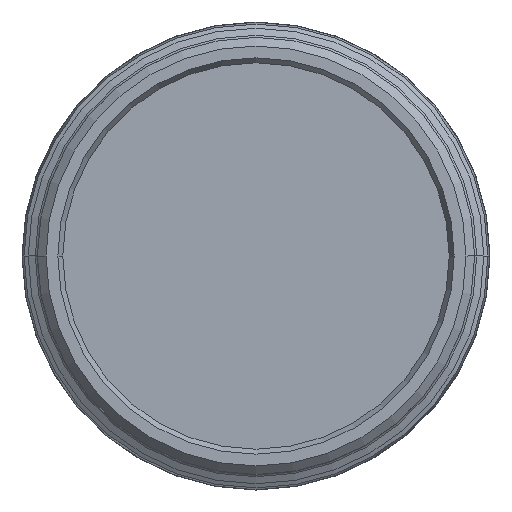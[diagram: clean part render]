
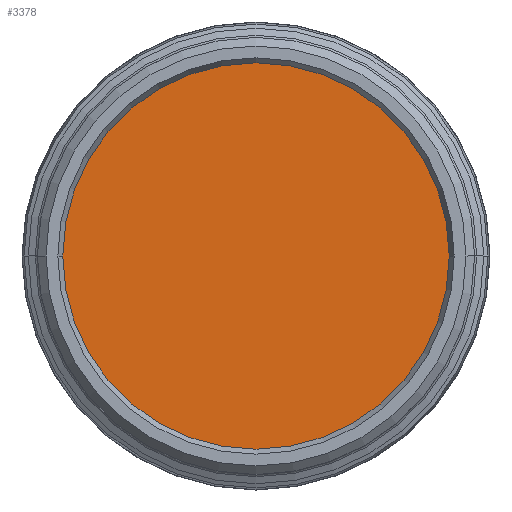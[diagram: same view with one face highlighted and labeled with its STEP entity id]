
A CAD part, front view. The second image highlights one B-rep face of the part: STEP entity #3378.
In plain terms, the highlighted planar face has unit normal (0, -1, 0).
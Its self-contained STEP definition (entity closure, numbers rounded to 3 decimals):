
#1644=CARTESIAN_POINT('',(0.,10.,0.));
#1645=DIRECTION('',(0.,-1.,0.));
#1646=DIRECTION('',(-1.,0.,0.));
#1647=AXIS2_PLACEMENT_3D('',#1644,#1645,#1646);
#1666=CARTESIAN_POINT('',(0.,10.,0.));
#1667=DIRECTION('',(0.,-1.,0.));
#1668=DIRECTION('',(1.,0.,0.));
#1669=AXIS2_PLACEMENT_3D('',#1666,#1667,#1668);
#1857=CARTESIAN_POINT('',(45.,10.,0.));
#1858=CARTESIAN_POINT('',(-45.,10.,0.));
#1859=VERTEX_POINT('',#1857);
#1860=VERTEX_POINT('',#1858);
#3368=CARTESIAN_POINT('',(0.,10.,0.));
#3369=DIRECTION('',(0.,-1.,0.));
#3370=DIRECTION('',(1.,0.,0.));
#3371=AXIS2_PLACEMENT_3D('',#3368,#3369,#3370);
#3372=PLANE('',#3371);
#3374=ORIENTED_EDGE('',*,*,#3373,.F.);
#3375=ORIENTED_EDGE('',*,*,#3358,.F.);
#3376=EDGE_LOOP('',(#3374,#3375));
#3377=FACE_OUTER_BOUND('',#3376,.F.);
#1648=CIRCLE('',#1647,45.);
#1670=CIRCLE('',#1669,45.);
#3358=EDGE_CURVE('',#1860,#1859,#1648,.T.);
#3373=EDGE_CURVE('',#1859,#1860,#1670,.T.);
#3378=ADVANCED_FACE('',(#3377),#3372,.T.);
